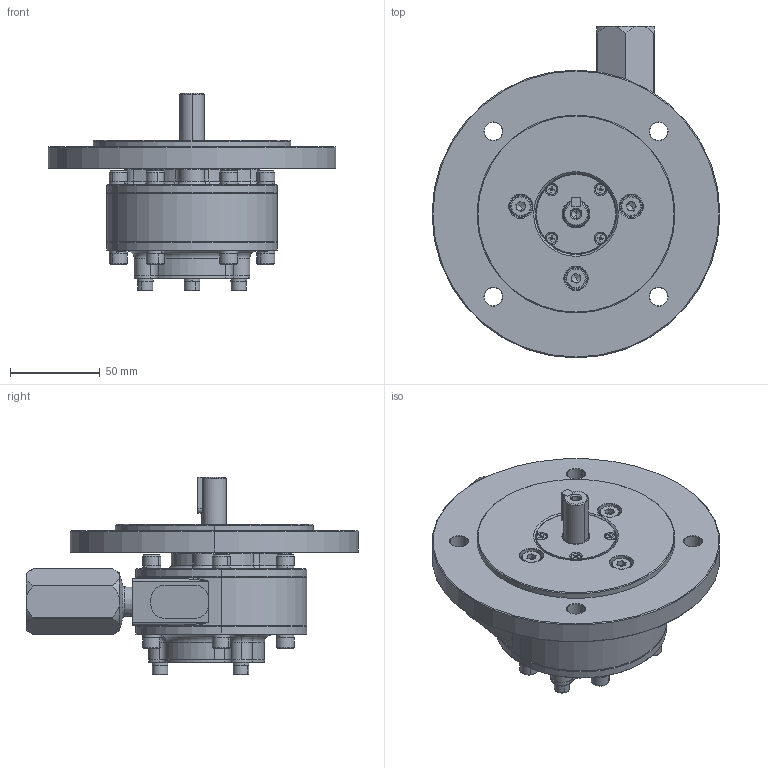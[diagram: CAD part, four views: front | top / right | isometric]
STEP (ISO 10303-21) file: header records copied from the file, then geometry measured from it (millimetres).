
FILE_DESCRIPTION (( 'STEP AP214' ), '1' );
FILE_NAME ('2VMD-SS (IEC).STEP', '2026-04-24T10:48:34', ( '' ), ( '' ), 'SwSTEP 2.0', 'SolidWorks 2017', '' );
FILE_SCHEMA (( 'AUTOMOTIVE_DESIGN' ));
Length unit declared in the file: millimetre
Products named in the file (2): 2VMD-SS (IEC)
Bounding box: 160 x 184.53 x 109.7 mm (x, y, z)
Surface area: 152186.2 mm2 (no closed solid volume)
Topology: 0 solids, 53 shells, 1674 faces, 4056 edges, 2445 vertices
Faces by surface type: plane 616, cylinder 447, cone 407, torus 158, sphere 36, bspline 10
Entity records: 67943 total; most frequent: CARTESIAN_POINT 10304, DIRECTION 8719, ORIENTED_EDGE 7705, EDGE_CURVE 3960, AXIS2_PLACEMENT_3D 3404, VERTEX_POINT 2431, VECTOR 1911, LINE 1911
